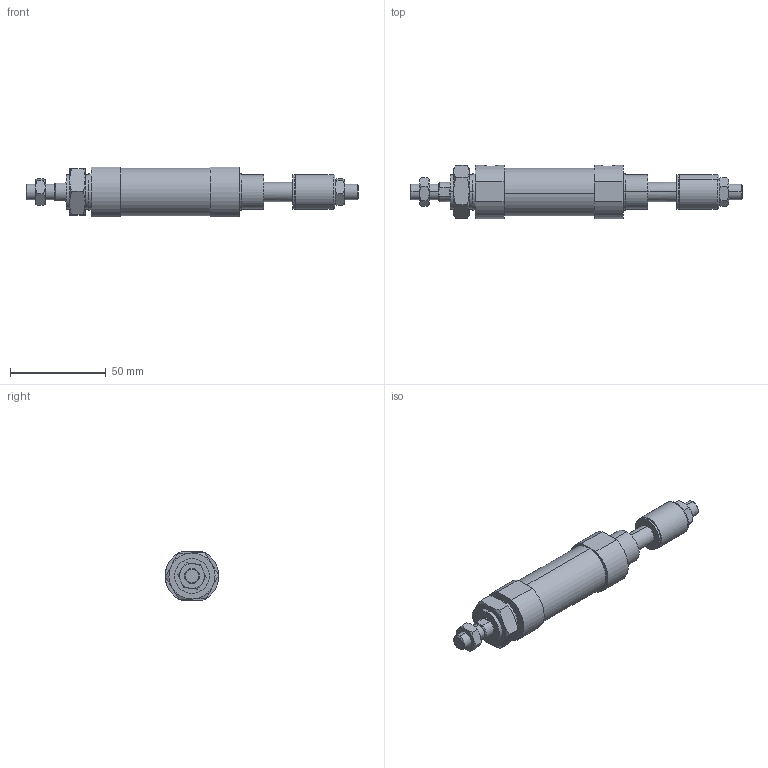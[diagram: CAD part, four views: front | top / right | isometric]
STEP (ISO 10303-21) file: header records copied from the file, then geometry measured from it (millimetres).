
FILE_DESCRIPTION (( 'STEP AP203' ), '1' );
FILE_NAME ('JGA7-20-15-N.STEP', '2016-04-20T01:20:43', ( '' ), ( '' ), 'SwSTEP 2.0', 'SolidWorks 2014', '' );
FILE_SCHEMA (( 'CONFIG_CONTROL_DESIGN' ));
Length unit declared in the file: millimetre
Products named in the file (7): M8x1.25-5mm; M18x1.5-8mm; JGA7-20A-15; JGA7-20-15-N; JGLH2-20B; JGA7-20-Turn; 20-15
Assembly tree (7 placements, depth 2):
  JGA7-20-15-N
    JGLH2-20B
    20-15
    JGA7-20A-15
    M8x1.25-5mm  x2
    M18x1.5-8mm
    JGA7-20-Turn
Bounding box: 173 x 28 x 26 mm (x, y, z)
Volume: 57951.4 mm3; surface area: 18794.5 mm2
Topology: 7 solids, 7 shells, 145 faces, 308 edges, 190 vertices
Faces by surface type: plane 57, cylinder 42, torus 38, cone 8
Entity records: 4491 total; most frequent: CARTESIAN_POINT 1079, DIRECTION 586, ORIENTED_EDGE 520, EDGE_CURVE 260, AXIS2_PLACEMENT_3D 253, VERTEX_POINT 162, EDGE_LOOP 142, ADVANCED_FACE 123
